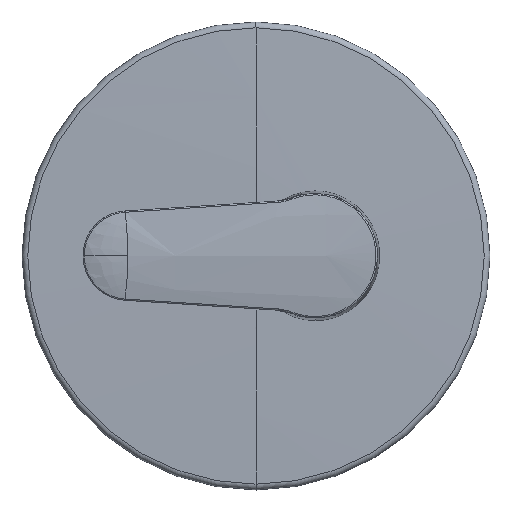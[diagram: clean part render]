
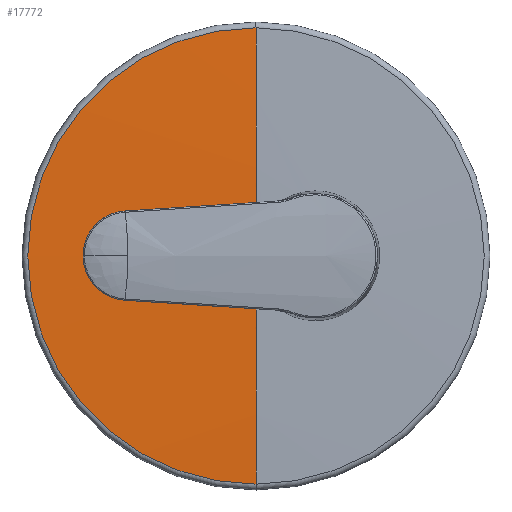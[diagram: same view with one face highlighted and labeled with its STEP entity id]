
A CAD part, top view. The second image highlights one B-rep face of the part: STEP entity #17772.
In plain terms, the highlighted spherical face has radius 2891.5 mm.
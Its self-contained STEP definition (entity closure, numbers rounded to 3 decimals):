
#13077=CARTESIAN_POINT('',(-20.,-6.238,28.993));
#13078=CARTESIAN_POINT('',(-20.074,-5.999,
28.994));
#13079=CARTESIAN_POINT('',(-20.206,-5.547,
28.995));
#13080=CARTESIAN_POINT('',(-20.359,-4.952,
28.996));
#13081=CARTESIAN_POINT('',(-20.48,-4.422,
28.997));
#13082=CARTESIAN_POINT('',(-20.576,-3.948,
28.997));
#13083=CARTESIAN_POINT('',(-20.653,-3.524,
28.998));
#13084=CARTESIAN_POINT('',(-20.714,-3.143,
28.998));
#13085=CARTESIAN_POINT('',(-20.763,-2.799,
28.999));
#13086=CARTESIAN_POINT('',(-20.802,-2.489,
28.999));
#13087=CARTESIAN_POINT('',(-20.834,-2.211,
28.999));
#13088=CARTESIAN_POINT('',(-20.858,-1.964,
28.999));
#13089=CARTESIAN_POINT('',(-20.878,-1.744,
28.999));
#13090=CARTESIAN_POINT('',(-20.893,-1.55,
28.999));
#13091=CARTESIAN_POINT('',(-20.905,-1.379,
29.));
#13092=CARTESIAN_POINT('',(-20.914,-1.228,
29.));
#13093=CARTESIAN_POINT('',(-20.922,-1.096,
29.));
#13094=CARTESIAN_POINT('',(-20.927,-0.978,
29.));
#13095=CARTESIAN_POINT('',(-20.932,-0.871,
29.));
#13096=CARTESIAN_POINT('',(-20.936,-0.772,
29.));
#13097=CARTESIAN_POINT('',(-20.939,-0.679,
29.));
#13098=CARTESIAN_POINT('',(-20.942,-0.59,
29.));
#13099=CARTESIAN_POINT('',(-20.944,-0.504,
29.));
#13100=CARTESIAN_POINT('',(-20.946,-0.419,
29.));
#13101=CARTESIAN_POINT('',(-20.947,-0.335,
29.));
#13102=CARTESIAN_POINT('',(-20.949,-0.252,
29.));
#13103=CARTESIAN_POINT('',(-20.949,-0.169,
29.));
#13104=CARTESIAN_POINT('',(-20.95,-0.086,
29.));
#13105=CARTESIAN_POINT('',(-20.95,-0.003,
29.));
#13106=CARTESIAN_POINT('',(-20.95,0.081,
29.));
#13107=CARTESIAN_POINT('',(-20.949,0.164,
29.));
#13108=CARTESIAN_POINT('',(-20.949,0.247,
29.));
#13109=CARTESIAN_POINT('',(-20.948,0.33,
29.));
#13110=CARTESIAN_POINT('',(-20.946,0.414,
29.));
#13111=CARTESIAN_POINT('',(-20.944,0.498,
29.));
#13112=CARTESIAN_POINT('',(-20.942,0.584,
29.));
#13113=CARTESIAN_POINT('',(-20.939,0.673,
29.));
#13114=CARTESIAN_POINT('',(-20.936,0.766,
29.));
#13115=CARTESIAN_POINT('',(-20.932,0.865,
29.));
#13116=CARTESIAN_POINT('',(-20.928,0.971,
29.));
#13117=CARTESIAN_POINT('',(-20.922,1.088,
29.));
#13118=CARTESIAN_POINT('',(-20.915,1.22,
29.));
#13119=CARTESIAN_POINT('',(-20.905,1.37,
29.));
#13120=CARTESIAN_POINT('',(-20.894,1.541,
28.999));
#13121=CARTESIAN_POINT('',(-20.878,1.735,
28.999));
#13122=CARTESIAN_POINT('',(-20.859,1.954,
28.999));
#13123=CARTESIAN_POINT('',(-20.835,2.202,
28.999));
#13124=CARTESIAN_POINT('',(-20.804,2.48,
28.999));
#13125=CARTESIAN_POINT('',(-20.764,2.79,
28.999));
#13126=CARTESIAN_POINT('',(-20.715,3.135,
28.998));
#13127=CARTESIAN_POINT('',(-20.654,3.518,
28.998));
#13128=CARTESIAN_POINT('',(-20.577,3.943,
28.997));
#13129=CARTESIAN_POINT('',(-20.481,4.417,
28.997));
#13130=CARTESIAN_POINT('',(-20.36,4.949,
28.996));
#13131=CARTESIAN_POINT('',(-20.206,5.545,
28.995));
#13132=CARTESIAN_POINT('',(-20.075,5.999,
28.994));
#13133=CARTESIAN_POINT('',(-20.,6.238,28.993));
#13135=CARTESIAN_POINT('',(-20.,0.,27.986));
#13136=DIRECTION('',(0.,0.,-1.));
#13137=DIRECTION('',(0.,-1.,0.));
#13138=AXIS2_PLACEMENT_3D('',#13135,#13136,#13137);
#13270=CARTESIAN_POINT('',(-20.,0.,-2862.5));
#13271=DIRECTION('',(-1.,0.,0.));
#13272=DIRECTION('',(0.,0.002,1.));
#13273=AXIS2_PLACEMENT_3D('',#13270,#13271,#13272);
#13280=CARTESIAN_POINT('',(-20.,0.,-2862.5));
#13281=DIRECTION('',(1.,0.,0.));
#13282=DIRECTION('',(0.,-0.002,1.));
#13283=AXIS2_PLACEMENT_3D('',#13280,#13281,#13282);
#13320=CARTESIAN_POINT('',(-20.,-6.238,28.993));
#14262=CARTESIAN_POINT('',(-20.,-76.553,27.986));
#14263=CARTESIAN_POINT('',(-20.,76.553,27.986));
#14264=VERTEX_POINT('',#14262);
#14265=VERTEX_POINT('',#14263);
#14270=VERTEX_POINT('',#13320);
#14272=VERTEX_POINT('',#13133);
#17758=CARTESIAN_POINT('',(-20.,0.,-2862.5));
#17759=DIRECTION('',(0.,0.,1.));
#17760=DIRECTION('',(0.,-1.,0.));
#17761=AXIS2_PLACEMENT_3D('',#17758,#17759,#17760);
#17762=SPHERICAL_SURFACE('',#17761,2891.5);
#17764=ORIENTED_EDGE('',*,*,#17763,.F.);
#17766=ORIENTED_EDGE('',*,*,#17765,.T.);
#17767=ORIENTED_EDGE('',*,*,#17752,.T.);
#17769=ORIENTED_EDGE('',*,*,#17768,.F.);
#17770=EDGE_LOOP('',(#17764,#17766,#17767,#17769));
#17771=FACE_OUTER_BOUND('',#17770,.F.);
#17772=ADVANCED_FACE('',(#17771),#17762,.T.);
#13134=B_SPLINE_CURVE_WITH_KNOTS('',3,(#13077,#13078,#13079,#13080,#13081,
#13082,#13083,#13084,#13085,#13086,#13087,#13088,#13089,#13090,#13091,#13092,
#13093,#13094,#13095,#13096,#13097,#13098,#13099,#13100,#13101,#13102,#13103,
#13104,#13105,#13106,#13107,#13108,#13109,#13110,#13111,#13112,#13113,#13114,
#13115,#13116,#13117,#13118,#13119,#13120,#13121,#13122,#13123,#13124,#13125,
#13126,#13127,#13128,#13129,#13130,#13131,#13132,#13133),.UNSPECIFIED.,.F.,.F.,(
4,1,1,1,1,1,1,1,1,1,1,1,1,1,1,1,1,1,1,1,1,1,1,1,1,1,1,1,1,1,1,1,1,1,1,1,1,1,1,1,
1,1,1,1,1,1,1,1,1,1,1,1,1,1,4),(0.,0.019,0.037,
0.056,0.074,0.093,0.111,
0.13,0.148,0.167,0.185,
0.204,0.222,0.241,0.259,
0.278,0.296,0.315,0.333,
0.352,0.37,0.389,0.407,
0.426,0.444,0.463,0.481,0.5,
0.519,0.537,0.556,0.574,
0.593,0.611,0.63,0.648,
0.667,0.685,0.704,0.722,
0.741,0.759,0.778,0.796,
0.815,0.833,0.852,0.87,
0.889,0.907,0.926,0.944,
0.963,0.981,1.),.UNSPECIFIED.);
#13139=CIRCLE('',#13138,76.553);
#13274=CIRCLE('',#13273,2891.5);
#13284=CIRCLE('',#13283,2891.5);
#17752=EDGE_CURVE('',#14264,#14265,#13139,.T.);
#17763=EDGE_CURVE('',#14270,#14272,#13134,.T.);
#17765=EDGE_CURVE('',#14270,#14264,#13284,.T.);
#17768=EDGE_CURVE('',#14272,#14265,#13274,.T.);
